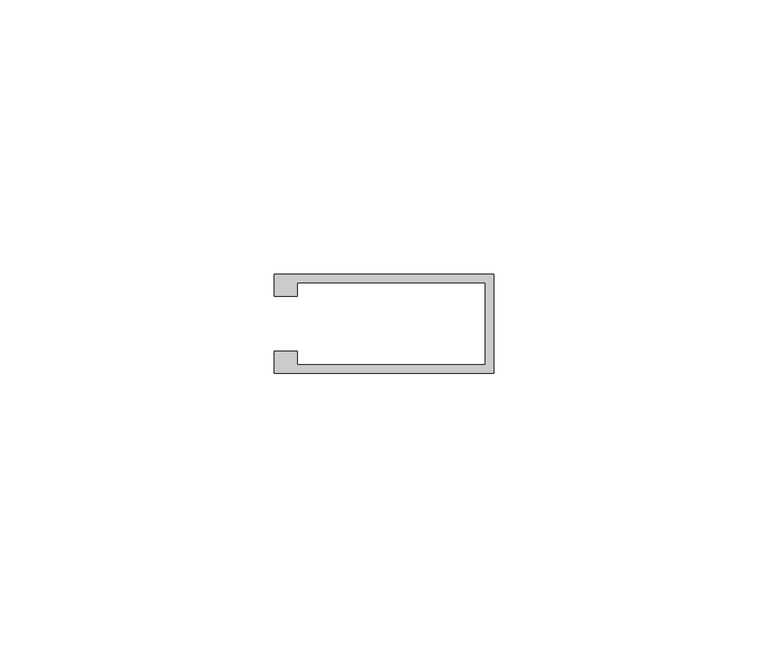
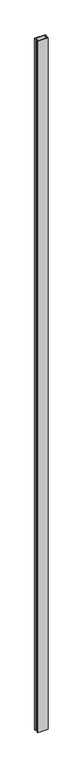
"""IFC4 building model written with IfcOpenShell, lengths in millimetres: member geometry, Прямоугольный импост : 11-AMG-1-Профиль 40Х18 Верх П."""

from ifc_helpers import new_model, si_unit, frame, origin, place, context, project, spatial, polyline, outline, extrude, source, transform, mapped, element, save


def member_9d05c48f(model_context):
    return source(origin(), model_context, "Body", "SweptSolid", [
        extrude(outline(polyline([(-40.0, 5.0), (-40.0, 9.0), (0.0, 9.0), (0.0, -9.0), (-40.0, -9.0), (-40.0, -5.0), (-35.8552307, -5.0), (-35.8552307, -7.5), (-1.5, -7.5), (-1.5, 7.5), (-35.8552307, 7.5), (-35.8552307, 5.0), (-40.0, 5.0)])), frame((0.0, 0.0, -2720.0), z_axis=(0.0, 0.0, 1.0), x_axis=(1.0, 0.0, 0.0)), (0.0, 0.0, 1.0), 2720.0),
    ])


if __name__ == "__main__":
    model = new_model("IFC4")
    model_context = context("Model", 3, world=origin())
    ifc_project = project(units=[si_unit("LENGTHUNIT", "METRE", prefix="MILLI")], contexts=[model_context])
    site = spatial("IfcSite", under=ifc_project)
    building = spatial("IfcBuilding", under=site)
    placement = place(None, origin())
    member_shape = member_9d05c48f(model_context)
    element("IfcMember", 1, ObjectType="Прямоугольный импост : 11-AMG-1-Профиль 40Х18 Верх П", at=placement, inside=building, context=model_context, shape_type="MappedRepresentation", body=[
        mapped(member_shape, transform((0.0, 0.0, 0.0), x_axis=(1.0, 0.0, 0.0), y_axis=(0.0, 1.0, 0.0), z_axis=(0.0, 0.0, 1.0))),
    ])
    save(model, "model.ifc")
